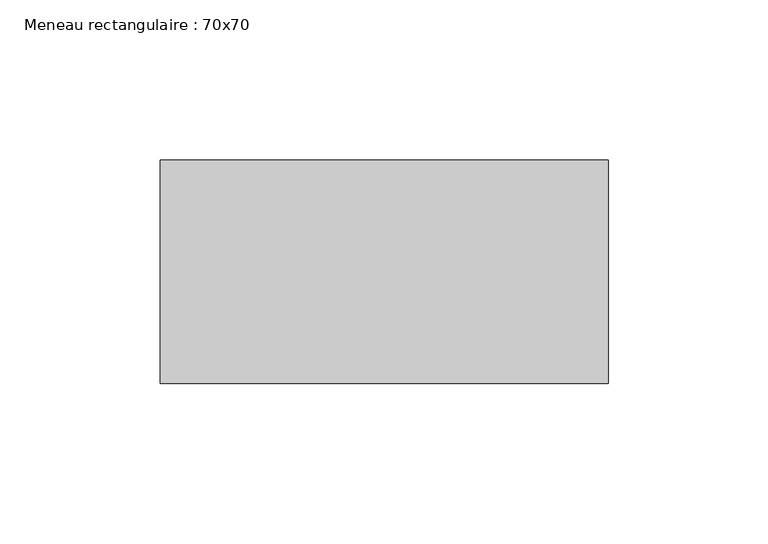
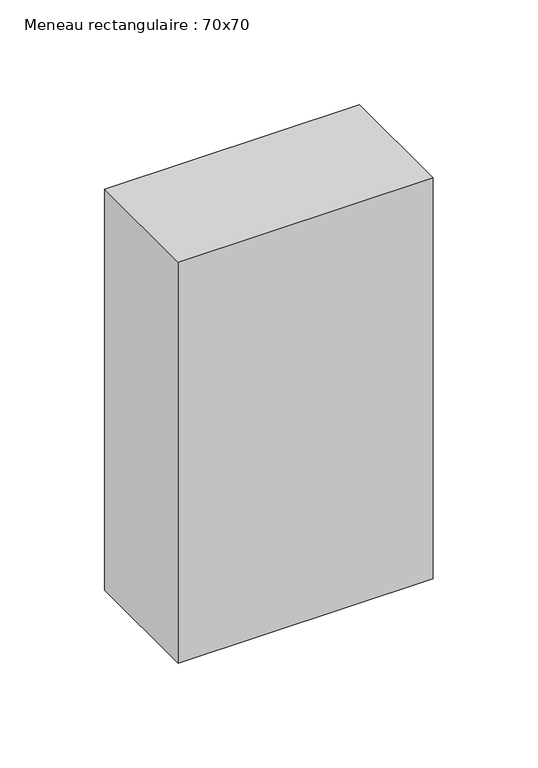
"""IFC4 building model written with IfcOpenShell, lengths in millimetres: member geometry, Meneau rectangulaire : 70x70."""

from ifc_helpers import new_model, si_unit, frame, origin, place, context, project, spatial, polyline, outline, extrude, source, transform, mapped, element, save


def meneau_rectangulaire_70x70_a7c6c1f2(model_context):
    return source(origin(), model_context, "Body", "SweptSolid", [
        extrude(outline(polyline([(0.0, 15.0), (0.0, -55.0), (-140.0, -55.0), (-140.0, 15.0), (0.0, 15.0)])), frame((0.0, 0.0, -233.0), z_axis=(0.0, 0.0, 1.0), x_axis=(1.0, 0.0, 0.0)), (0.0, 0.0, 1.0), 233.0),
    ])


if __name__ == "__main__":
    model = new_model("IFC4")
    model_context = context("Model", 3, world=origin())
    ifc_project = project(units=[si_unit("LENGTHUNIT", "METRE", prefix="MILLI")], contexts=[model_context])
    site = spatial("IfcSite", under=ifc_project)
    building = spatial("IfcBuilding", under=site)
    placement = place(None, origin())
    meneau_rectangulaire_70x70_shape = meneau_rectangulaire_70x70_a7c6c1f2(model_context)
    element("IfcMember", 1, ObjectType="Meneau rectangulaire : 70x70", at=placement, inside=building, context=model_context, shape_type="MappedRepresentation", body=[
        mapped(meneau_rectangulaire_70x70_shape, transform((0.0, 0.0, 0.0), x_axis=(1.0, 0.0, 0.0), y_axis=(0.0, 1.0, 0.0), z_axis=(0.0, 0.0, 1.0))),
    ])
    save(model, "model.ifc")
